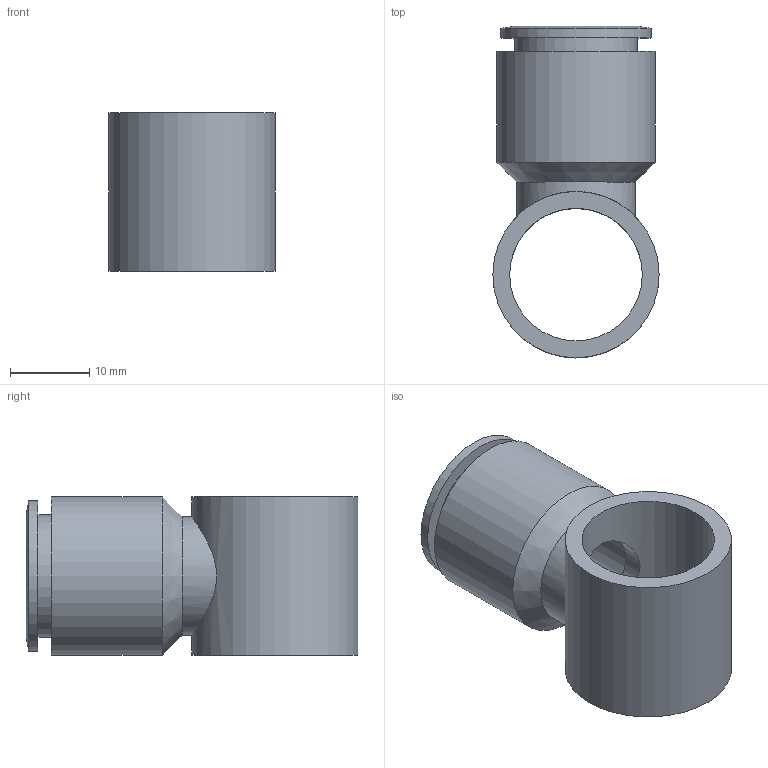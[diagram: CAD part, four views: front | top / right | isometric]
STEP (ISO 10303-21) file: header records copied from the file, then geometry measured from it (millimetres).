
FILE_DESCRIPTION((''),'2;1');
FILE_NAME('C:\Documents and Settings\rivolro1\Documenti\copia di Raccordi\PLASTICA\T13XXXX\T131238.stp','2007-10-30T17:37:58',('Rivolro1'),(''),'Autodesk Inventor 2008','Autodesk Inventor 2008','');
FILE_SCHEMA(('AUTOMOTIVE_DESIGN { 1 0 10303 214 1 1 1 1 }'));
Length unit declared in the file: millimetre
Products named in the file (1): T131238
Bounding box: 21 x 41.9 x 20 mm (x, y, z)
Volume: 5853.2 mm3; surface area: 5034.6 mm2
Topology: 1 solids, 1 shells, 16 faces, 27 edges, 17 vertices
Faces by surface type: cylinder 7, plane 5, bspline 2, cone 2
Full cylindrical faces by diameter (mm): 10.3 x1, 15 x1, 15.5 x1, 16.75 x1, 19 x1, 20 x1, 21 x1
Entity records: 577 total; most frequent: CARTESIAN_POINT 257, DIRECTION 60, ORIENTED_EDGE 34, EDGE_LOOP 34, AXIS2_PLACEMENT_3D 30, FACE_BOUND 18, VERTEX_POINT 17, EDGE_CURVE 17
